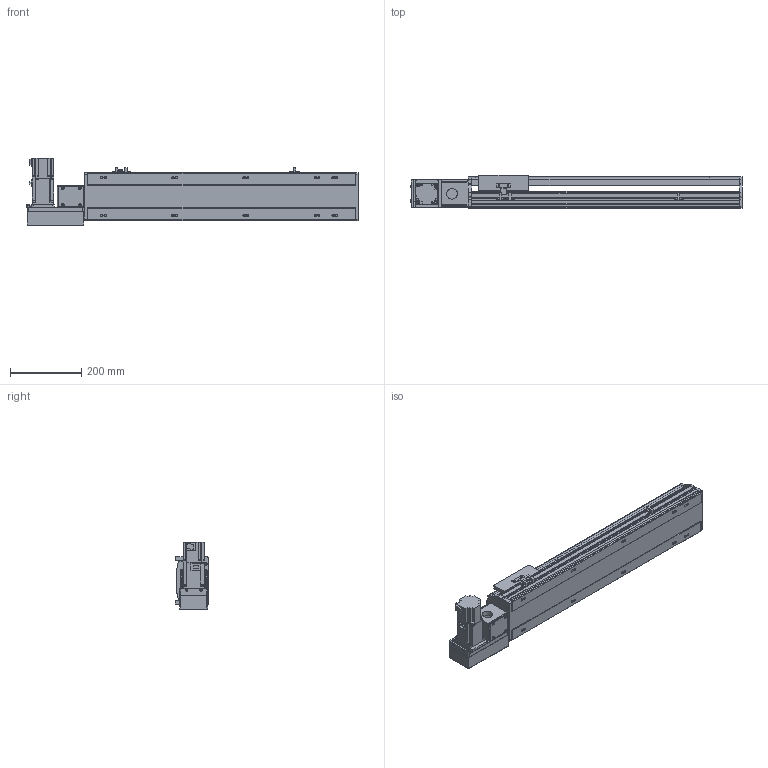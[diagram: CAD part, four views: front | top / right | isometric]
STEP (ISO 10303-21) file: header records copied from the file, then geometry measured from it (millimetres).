
FILE_DESCRIPTION(/* description */ ('STEP AP214'),/* implementation_level */ '2;1');
FILE_NAME(/* name */ 'PBS140S-P40-S500-L-T40-C1-N(0)',/* time_stamp */ '2022-06-09T02:00:42+02:00',/* author */ ('License CC BY-ND 4.0'),/* organization */ ('CADENAS'),/* preprocessor_version */ 'ST-DEVELOPER v18.102',/* originating_system */ 'PARTsolutions',/* authorisation */ ' ');
FILE_SCHEMA (('AUTOMOTIVE_DESIGN {1 0 10303 214 3 1 1}'));
Length unit declared in the file: millimetre
Products named in the file (7): PBS140S-P40-S500-L-T40-C1-N(0); PBS140S_sensor; PBS140S_plant; PBS140S_sliser; T40-p1; PBS140ST-L_motors; PBS140S-S500()_body
Assembly tree (8 placements, depth 2):
  PBS140S-P40-S500-L-T40-C1-N(0)
    PBS140S_sensor  x3
    PBS140S_plant
    PBS140S_sliser
    T40-p1
    PBS140ST-L_motors
    PBS140S-S500()_body
Bounding box: 933 x 93 x 189.7 mm (x, y, z)
Volume: 4761067.2 mm3; surface area: 847142.8 mm2
Topology: 8 solids, 8 shells, 1051 faces, 2791 edges, 1827 vertices
Faces by surface type: plane 684, cylinder 321, cone 36, sphere 8, torus 2
Full cylindrical faces by diameter (mm): 3.242 x4, 4 x2, 4.134 x4, 4.4 x8, 4.5 x2, 4.8 x4, 4.917 x18, 5.5 x7, 6 x2, 7 x12, 7.5 x8, 8 x12, 8.5 x4, 10.5 x10, 14 x1, 30 x2, 50 x2
Entity records: 30122 total; most frequent: CARTESIAN_POINT 5480, DIRECTION 5138, ORIENTED_EDGE 4882, EDGE_CURVE 2441, AXIS2_PLACEMENT_3D 1769, VERTEX_POINT 1681, LINE 1600, VECTOR 1600
